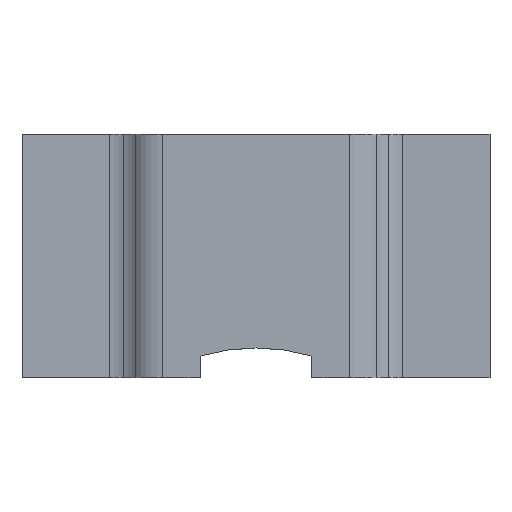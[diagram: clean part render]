
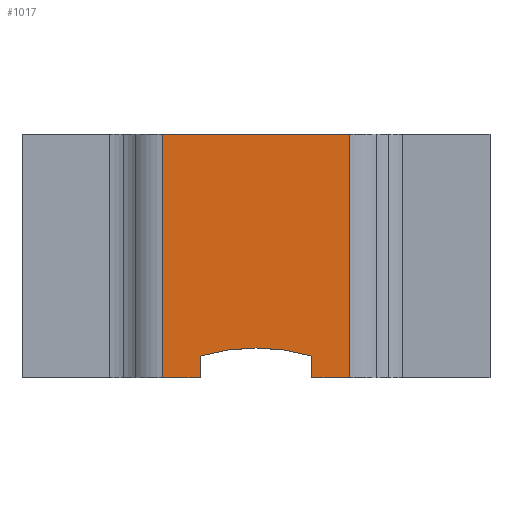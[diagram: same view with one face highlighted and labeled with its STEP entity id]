
A CAD part, top view. The second image highlights one B-rep face of the part: STEP entity #1017.
In plain terms, the highlighted planar face has unit normal (0, 0, 1).
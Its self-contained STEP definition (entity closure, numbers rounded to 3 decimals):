
#20 = DIRECTION ( 'NONE',  ( 0., 0., 1. ) ) ;
#26 = CARTESIAN_POINT ( 'NONE',  ( 2., 5.2, 0.83 ) ) ;
#34 = VECTOR ( 'NONE', #587, 1000. ) ;
#70 = ORIENTED_EDGE ( 'NONE', *, *, #1055, .T. ) ;
#73 = ORIENTED_EDGE ( 'NONE', *, *, #564, .F. ) ;
#77 = LINE ( 'NONE', #206, #776 ) ;
#140 = VERTEX_POINT ( 'NONE', #824 ) ;
#146 = CARTESIAN_POINT ( 'NONE',  ( -2., 5.2, 0.83 ) ) ;
#153 = CARTESIAN_POINT ( 'NONE',  ( 1.191, 0., 0.83 ) ) ;
#169 = ORIENTED_EDGE ( 'NONE', *, *, #400, .T. ) ;
#199 = ORIENTED_EDGE ( 'NONE', *, *, #1098, .F. ) ;
#206 = CARTESIAN_POINT ( 'NONE',  ( 1., 0., 0.83 ) ) ;
#213 = ORIENTED_EDGE ( 'NONE', *, *, #965, .T. ) ;
#237 = ORIENTED_EDGE ( 'NONE', *, *, #269, .F. ) ;
#243 = AXIS2_PLACEMENT_3D ( 'NONE', #1039, #20, #660 ) ;
#269 = EDGE_CURVE ( 'NONE', #1033, #472, #392, .T. ) ;
#316 = EDGE_CURVE ( 'NONE', #472, #487, #555, .T. ) ;
#348 = DIRECTION ( 'NONE',  ( 0., -1., 0. ) ) ;
#371 = VECTOR ( 'NONE', #1063, 1000. ) ;
#374 = VERTEX_POINT ( 'NONE', #774 ) ;
#392 = LINE ( 'NONE', #851, #34 ) ;
#399 = DIRECTION ( 'NONE',  ( 0., 0., 1. ) ) ;
#400 = EDGE_CURVE ( 'NONE', #1033, #374, #779, .T. ) ;
#402 = CARTESIAN_POINT ( 'NONE',  ( -1.191, 0.461, 0.83 ) ) ;
#472 = VERTEX_POINT ( 'NONE', #681 ) ;
#487 = VERTEX_POINT ( 'NONE', #866 ) ;
#536 = CARTESIAN_POINT ( 'NONE',  ( -1.191, 0.461, 0.83 ) ) ;
#538 = FACE_OUTER_BOUND ( 'NONE', #884, .T. ) ;
#555 = LINE ( 'NONE', #26, #371 ) ;
#564 = EDGE_CURVE ( 'NONE', #981, #1014, #693, .T. ) ;
#587 = DIRECTION ( 'NONE',  ( 1., 0., 0. ) ) ;
#598 = DIRECTION ( 'NONE',  ( 0., 1., 0. ) ) ;
#599 = ORIENTED_EDGE ( 'NONE', *, *, #316, .F. ) ;
#600 = DIRECTION ( 'NONE',  ( 0., -1., 0. ) ) ;
#622 = VECTOR ( 'NONE', #881, 1000. ) ;
#631 = ORIENTED_EDGE ( 'NONE', *, *, #821, .F. ) ;
#653 = VECTOR ( 'NONE', #598, 1000. ) ;
#660 = DIRECTION ( 'NONE',  ( -1., 0., 0. ) ) ;
#669 = VECTOR ( 'NONE', #600, 1000. ) ;
#675 = AXIS2_PLACEMENT_3D ( 'NONE', #958, #399, #1168 ) ;
#676 = CARTESIAN_POINT ( 'NONE',  ( -1.191, 0., 0.83 ) ) ;
#679 = CARTESIAN_POINT ( 'NONE',  ( -2., 5.2, 0.83 ) ) ;
#681 = CARTESIAN_POINT ( 'NONE',  ( 2., 5.2, 0.83 ) ) ;
#693 = LINE ( 'NONE', #536, #867 ) ;
#750 = LINE ( 'NONE', #971, #622 ) ;
#774 = CARTESIAN_POINT ( 'NONE',  ( -2., 0., 0.83 ) ) ;
#776 = VECTOR ( 'NONE', #1066, 1000. ) ;
#779 = LINE ( 'NONE', #146, #669 ) ;
#798 = VERTEX_POINT ( 'NONE', #943 ) ;
#821 = EDGE_CURVE ( 'NONE', #140, #981, #1041, .T. ) ;
#824 = CARTESIAN_POINT ( 'NONE',  ( 1.191, 0.461, 0.83 ) ) ;
#851 = CARTESIAN_POINT ( 'NONE',  ( -2., 5.2, 0.83 ) ) ;
#866 = CARTESIAN_POINT ( 'NONE',  ( 2., 0., 0.83 ) ) ;
#867 = VECTOR ( 'NONE', #348, 1000. ) ;
#881 = DIRECTION ( 'NONE',  ( 1., 0., 0. ) ) ;
#884 = EDGE_LOOP ( 'NONE', ( #199, #70, #599, #237, #169, #213, #73, #631 ) ) ;
#943 = CARTESIAN_POINT ( 'NONE',  ( 1.191, 0., 0.83 ) ) ;
#958 = CARTESIAN_POINT ( 'NONE',  ( 2., 5.2, 0.83 ) ) ;
#965 = EDGE_CURVE ( 'NONE', #374, #1014, #77, .T. ) ;
#971 = CARTESIAN_POINT ( 'NONE',  ( 1., 0., 0.83 ) ) ;
#981 = VERTEX_POINT ( 'NONE', #402 ) ;
#1014 = VERTEX_POINT ( 'NONE', #676 ) ;
#1017 = ADVANCED_FACE ( 'NONE', ( #538 ), #1064, .T. ) ;
#1026 = LINE ( 'NONE', #153, #653 ) ;
#1033 = VERTEX_POINT ( 'NONE', #679 ) ;
#1039 = CARTESIAN_POINT ( 'NONE',  ( 0., -3.539, 0.83 ) ) ;
#1041 = CIRCLE ( 'NONE', #243, 4.173 ) ;
#1055 = EDGE_CURVE ( 'NONE', #798, #487, #750, .T. ) ;
#1063 = DIRECTION ( 'NONE',  ( 0., -1., 0. ) ) ;
#1064 = PLANE ( 'NONE',  #675 ) ;
#1066 = DIRECTION ( 'NONE',  ( 1., 0., 0. ) ) ;
#1098 = EDGE_CURVE ( 'NONE', #798, #140, #1026, .T. ) ;
#1168 = DIRECTION ( 'NONE',  ( 1., 0., 0. ) ) ;
